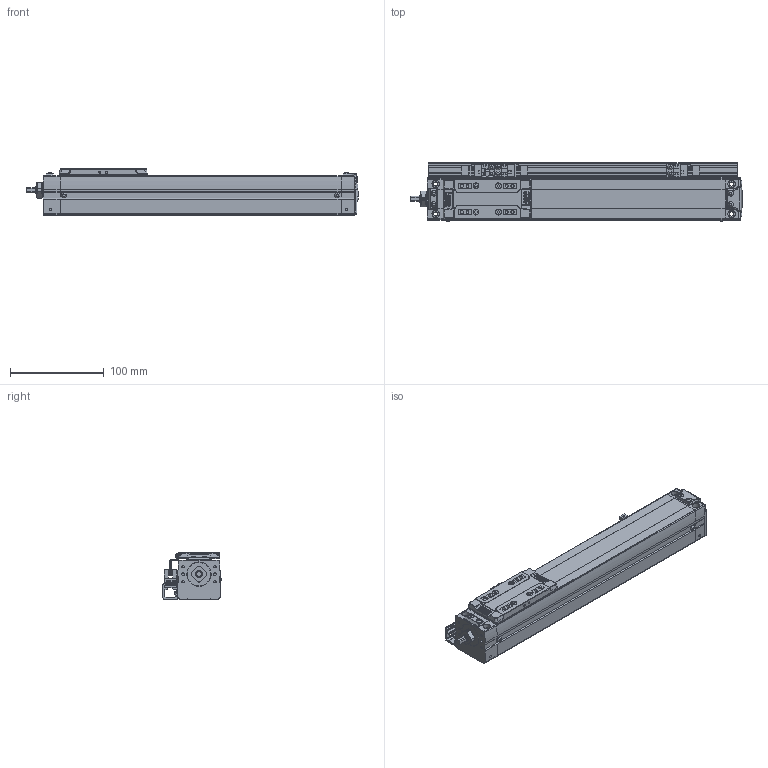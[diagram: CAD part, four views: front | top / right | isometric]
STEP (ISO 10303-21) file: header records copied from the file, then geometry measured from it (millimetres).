
FILE_DESCRIPTION(('STEP AP214'),'1');
FILE_NAME('Z:/Web/3D/SAN45/STP/SAN45ㅁㅁ-200+3SL.stp','2012-06-15T04:30:20',(' '),(' '),'Spatial InterOp 3D',' ',' ');
FILE_SCHEMA(('automotive_design'));
Length unit declared in the file: metre
Products named in the file (51): SAN45__-200; BODY-SAN45; REAR-SAN45; RRCV-SAN45; BHCS M3 x 6L; BHCS M3 X 6L; FRONT-SAN45; SHAFT; RN8 x 0.75; SSFX-SAN45; SLIDE-SAN45; SLCV-IM45; FHCS M3 x 6L; ____80; 3SL; SRL-16x17-380L; - OT; EE-SX674; SBK-SX674-352; HOME; + OT; DOG; SDG-SA45; SCREW M3 x 5L
Assembly tree (50 placements, depth 4):
  ____80
    SAN45__-200
      BODY-SAN45
      REAR-SAN45
        REAR-SAN45
        RRCV-SAN45
        BHCS M3 x 6L
        BHCS M3 X 6L
        BHCS M3 x 6L
        BHCS M3 x 6L
        BHCS M3 x 6L
        BHCS M3 x 6L
      FRONT-SAN45
        FRONT-SAN45
        SHAFT
        RN8 x 0.75
        SSFX-SAN45
        BHCS M3 x 6L
        BHCS M3 x 6L
        BHCS M3 x 6L
        BHCS M3 x 6L
      SLIDE-SAN45
        SLIDE-SAN45
        SLCV-IM45
        FHCS M3 x 6L
        FHCS M3 x 6L
        FHCS M3 x 6L
        FHCS M3 x 6L
    3SL
      SRL-16x17-380L
      BHCS M3 x 6L
      BHCS M3 x 6L
      - OT
        EE-SX674
        BHCS M3 x 6L
        BHCS M3 x 6L
        SBK-SX674-352
      HOME
        EE-SX674
        BHCS M3 x 6L
        BHCS M3 x 6L
        SBK-SX674-352
      + OT
        EE-SX674
        BHCS M3 x 6L
        BHCS M3 x 6L
        SBK-SX674-352
      DOG
        SDG-SA45
        SCREW M3 x 5L
        SCREW M3 x 5L
Bounding box: 354.65 x 62.06 x 50 mm (x, y, z)
Volume: 664341.2 mm3; surface area: 153721.6 mm2
Topology: 41 solids, 41 shells, 1928 faces, 4906 edges, 3159 vertices
Faces by surface type: plane 1239, cylinder 492, cone 75, sphere 52, bspline 42, torus 25, extrusion 3
Full cylindrical faces by diameter (mm): 0.376 x2, 0.47 x1, 1.137 x2, 1.421 x1, 1.665 x4, 2.081 x2, 2.2 x4, 2.5 x19, 3 x6, 3.193 x4, 3.3 x4, 3.4 x4, 3.5 x14, 3.991 x2, 4.2 x7, 4.5 x4, 5 x3, 6 x6, 6.5 x2, 7 x1, 8 x8, 13 x1, 15 x1, 19 x1
Entity records: 76933 total; most frequent: CARTESIAN_POINT 14101, DIRECTION 9695, ORIENTED_EDGE 9246, EDGE_CURVE 4623, VECTOR 3247, LINE 3244, AXIS2_PLACEMENT_3D 3224, VERTEX_POINT 3106
